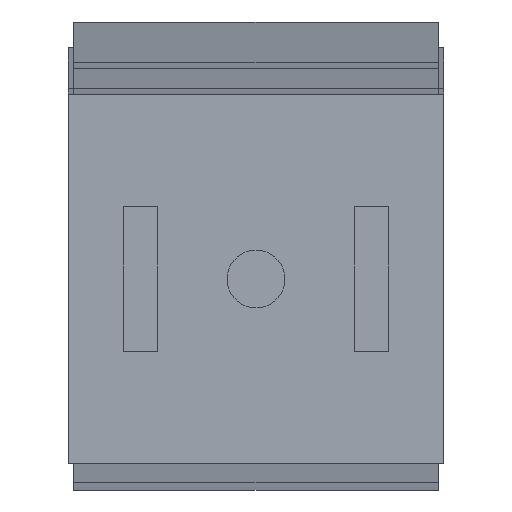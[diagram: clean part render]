
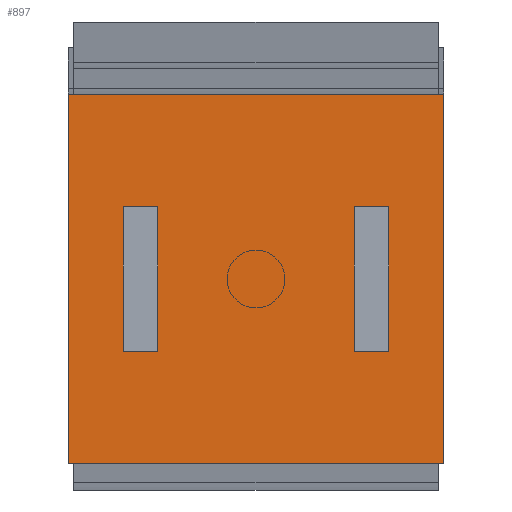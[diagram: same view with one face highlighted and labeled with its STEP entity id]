
A CAD part, left-side view. The second image highlights one B-rep face of the part: STEP entity #897.
In plain terms, the highlighted planar face has unit normal (-1, 0, 0).
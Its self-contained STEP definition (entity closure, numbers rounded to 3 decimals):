
#87=FACE_OUTER_BOUND('',#139,.T.);
#139=EDGE_LOOP('',(#656,#657,#658,#659));
#192=LINE('',#1317,#302);
#196=LINE('',#1323,#306);
#198=LINE('',#1327,#308);
#201=LINE('',#1331,#311);
#302=VECTOR('',#1063,10.);
#306=VECTOR('',#1069,10.);
#308=VECTOR('',#1073,10.);
#311=VECTOR('',#1078,10.);
#414=VERTEX_POINT('',#1315);
#415=VERTEX_POINT('',#1316);
#416=VERTEX_POINT('',#1322);
#417=VERTEX_POINT('',#1326);
#500=EDGE_CURVE('',#414,#415,#192,.T.);
#504=EDGE_CURVE('',#415,#416,#196,.T.);
#506=EDGE_CURVE('',#416,#417,#198,.T.);
#509=EDGE_CURVE('',#417,#414,#201,.T.);
#656=ORIENTED_EDGE('',*,*,#509,.T.);
#657=ORIENTED_EDGE('',*,*,#500,.T.);
#658=ORIENTED_EDGE('',*,*,#504,.T.);
#659=ORIENTED_EDGE('',*,*,#506,.T.);
#851=PLANE('',#977);
#897=ADVANCED_FACE('',(#87),#851,.F.);
#977=AXIS2_PLACEMENT_3D('',#1333,#1081,#1082);
#1063=DIRECTION('',(0.,0.,-1.));
#1069=DIRECTION('',(0.,-1.,0.));
#1073=DIRECTION('',(0.,0.,1.));
#1078=DIRECTION('',(0.,1.,0.));
#1081=DIRECTION('center_axis',(1.,0.,0.));
#1082=DIRECTION('ref_axis',(0.,0.,-1.));
#1315=CARTESIAN_POINT('',(0.,32.5,32.));
#1316=CARTESIAN_POINT('',(0.,32.5,-32.));
#1317=CARTESIAN_POINT('',(0.,32.5,32.));
#1322=CARTESIAN_POINT('',(0.,-32.5,-32.));
#1323=CARTESIAN_POINT('',(0.,32.5,-32.));
#1326=CARTESIAN_POINT('',(0.,-32.5,32.));
#1327=CARTESIAN_POINT('',(0.,-32.5,-32.));
#1331=CARTESIAN_POINT('',(0.,-32.5,32.));
#1333=CARTESIAN_POINT('Origin',(0.,0.,0.));
